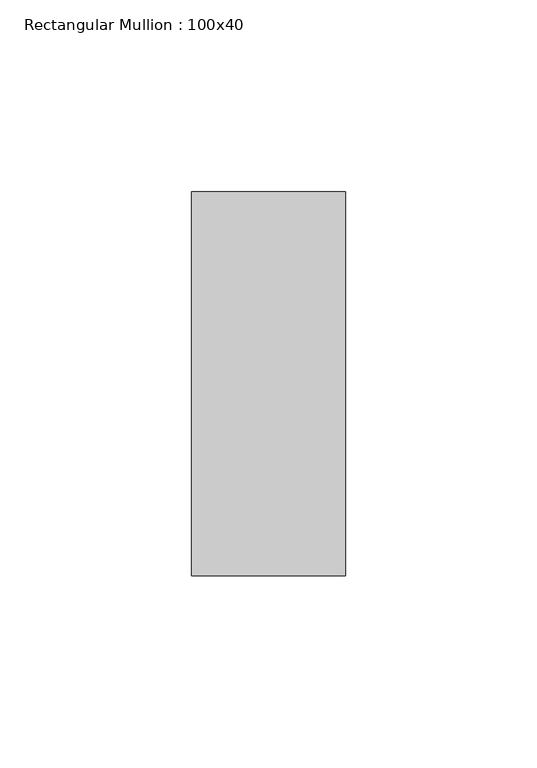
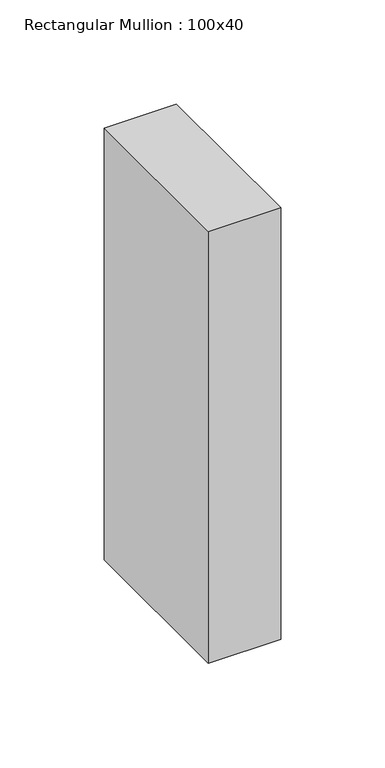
"""IFC4 building model written with IfcOpenShell, lengths in millimetres: member geometry, Rectangular Mullion : 100x40."""

from ifc_helpers import new_model, si_unit, frame, origin, place, context, project, spatial, polyline, outline, extrude, source, transform, mapped, element, save


def rectangular_mullion_100x40_60c8bedd(model_context):
    return source(origin(), model_context, "Body", "SweptSolid", [
        extrude(outline(polyline([(0.0, 50.0), (0.0, -50.0), (-40.0, -50.0), (-40.0, 50.0), (0.0, 50.0)])), frame((0.0, 0.0, -253.0), z_axis=(0.0, 0.0, 1.0), x_axis=(1.0, 0.0, 0.0)), (0.0, 0.0, 1.0), 253.0),
    ])


if __name__ == "__main__":
    model = new_model("IFC4")
    model_context = context("Model", 3, world=origin())
    ifc_project = project(units=[si_unit("LENGTHUNIT", "METRE", prefix="MILLI")], contexts=[model_context])
    site = spatial("IfcSite", under=ifc_project)
    building = spatial("IfcBuilding", under=site)
    placement = place(None, origin())
    rectangular_mullion_100x40_shape = rectangular_mullion_100x40_60c8bedd(model_context)
    element("IfcMember", 1, ObjectType="Rectangular Mullion : 100x40", at=placement, inside=building, context=model_context, shape_type="MappedRepresentation", body=[
        mapped(rectangular_mullion_100x40_shape, transform((0.0, 0.0, 0.0), x_axis=(1.0, 0.0, 0.0), y_axis=(0.0, 1.0, 0.0), z_axis=(0.0, 0.0, 1.0))),
    ])
    save(model, "model.ifc")
